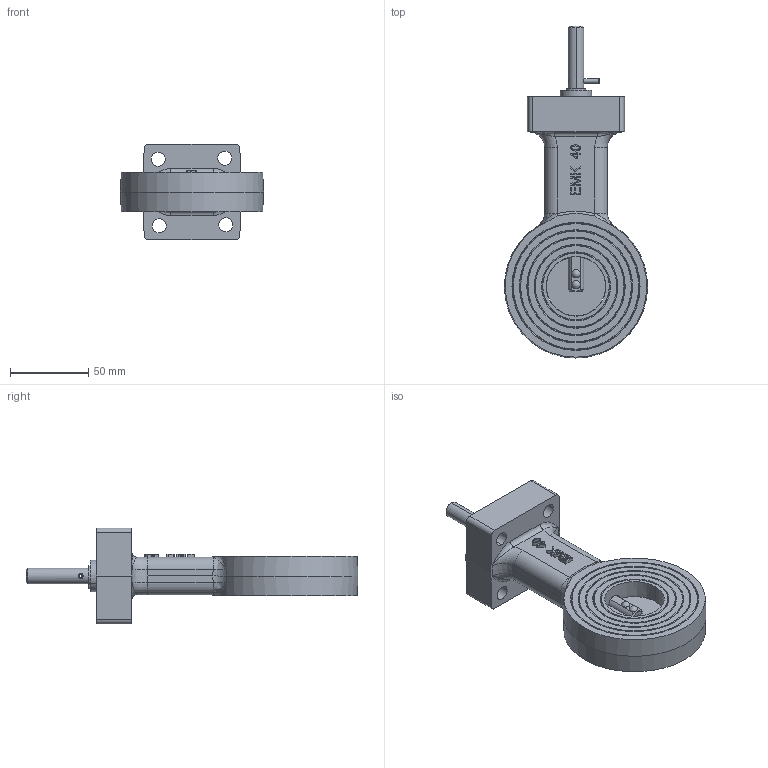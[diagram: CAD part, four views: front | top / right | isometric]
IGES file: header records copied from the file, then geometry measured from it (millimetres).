
Global section: file name: No Iges File Name specified; native system: AutoDesk Inventor R12.0; preprocessor: AutoDesk Inventor Iges Exporter R12.0; date: 20100818.142803; units: millimetre
Bounding box: 91.28 x 211.65 x 61 mm (x, y, z)
Volume: 266717.1 mm3; surface area: 52174.4 mm2
Topology: 1 solids, 1 shells, 375 faces, 948 edges, 606 vertices
Faces by surface type: plane 185, bspline 93, cylinder 35, revolution 30, cone 24, sphere 4, torus 4
